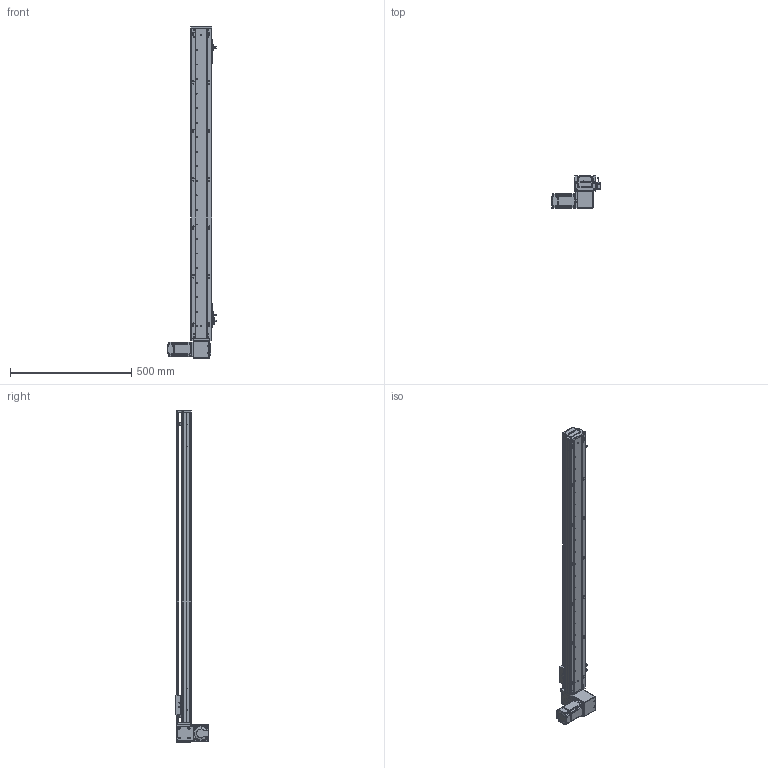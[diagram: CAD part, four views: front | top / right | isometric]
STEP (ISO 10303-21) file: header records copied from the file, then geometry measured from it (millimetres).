
FILE_DESCRIPTION (( 'STEP AP203' ), '1' );
FILE_NAME ('RY80-T-300-DL.SLDASM_1100.step', '2021-03-01T01:38:43', ( '盈信电脑' ), ( '东莞市道滘镇水果街19号' ), 'SwSTEP 2.0', 'SolidWorks 2012', '' );
FILE_SCHEMA (( 'CONFIG_CONTROL_DESIGN' ));
Length unit declared in the file: millimetre
Products named in the file (19): RY80-T-上下折同步轮盖板; RY100-T粣創揤踡裔; RY80-T-300-DL.SLDASM_1100; 1; RY80-T肮祭謫狟殏俋欶; RY80-T-M4蹟翐3; 滅袉蝶18-10; RY80-T萇儂假蚾啣; RY80-T翋肮祭謫裔啣; RY80-T肮祭湍揤輸2; RY80-T肮祭湍揤輸1; 672嫖萇羲壽假蚾釱; RY80俋离覜茼え; 覜茼ん672; RY80-T-翋肮祭謫釱; RY80-T綴裔啣; RY80-T-300-DL倰第奻裔啣_1100; RY80-T肮祭謫臏賑輸; RY80-T-300-DL倰第菁釱_1100
Assembly tree (24 placements, depth 2):
  RY80-T-300-DL.SLDASM_1100
    RY80-T-300-DL倰第菁釱_1100
    RY80-T肮祭謫臏賑輸
    RY80-T-300-DL倰第奻裔啣_1100
    RY80-T綴裔啣
    672嫖萇羲壽假蚾釱  x2
    覜茼ん672  x3
    RY80俋离覜茼え
    RY80-T-翋肮祭謫釱
    RY80-T肮祭湍揤輸1
    RY80-T肮祭湍揤輸2
    RY80-T萇儂假蚾啣
    RY80-T翋肮祭謫裔啣  x2
    滅袉蝶18-10  x2
    1
    RY80-T肮祭謫狟殏俋欶
    RY80-T-M4蹟翐3  x2
    RY80-T-上下折同步轮盖板
    RY100-T粣創揤踡裔
Bounding box: 198.7 x 134.5 x 1370 mm (x, y, z)
Volume: 2317228.6 mm3; surface area: 980309.9 mm2
Topology: 24 solids, 24 shells, 2499 faces, 6885 edges, 4471 vertices
Faces by surface type: plane 1343, cylinder 952, cone 148, bspline 56
Entity records: 78399 total; most frequent: CARTESIAN_POINT 18870, ORIENTED_EDGE 12214, DIRECTION 11508, EDGE_CURVE 6107, VERTEX_POINT 4012, AXIS2_PLACEMENT_3D 3870, LINE 3768, VECTOR 3768
